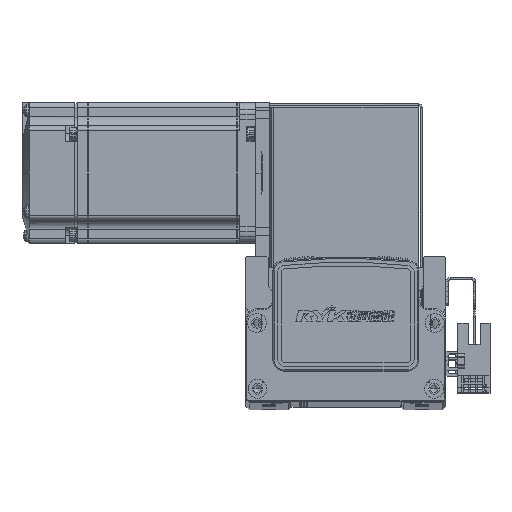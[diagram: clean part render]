
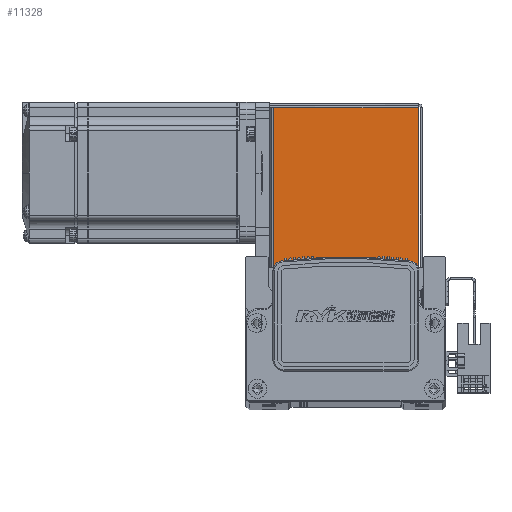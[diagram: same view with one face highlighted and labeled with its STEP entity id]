
A CAD part, top view. The second image highlights one B-rep face of the part: STEP entity #11328.
In plain terms, the highlighted planar face has unit normal (0, 0, 1).
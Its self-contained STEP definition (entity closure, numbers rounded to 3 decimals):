
#11328 = ADVANCED_FACE ( 'NONE', ( #38150 ), #11926, .F. ) ;
#11926 = PLANE ( 'NONE',  #48989 ) ;
#12008 = CARTESIAN_POINT ( 'NONE',  ( 0., 0., 35. ) ) ;
#12032 = DIRECTION ( 'NONE',  ( 0., 0., -1. ) ) ;
#12036 = DIRECTION ( 'NONE',  ( -1., 0., 0. ) ) ;
#13192 = LINE ( 'NONE', #16128, #13236 ) ;
#13193 = LINE ( 'NONE', #16176, #13237 ) ;
#13236 = VECTOR ( 'NONE', #16138, 1000. ) ;
#13237 = VECTOR ( 'NONE', #16183, 1000. ) ;
#13268 = LINE ( 'NONE', #16296, #13315 ) ;
#13301 = VECTOR ( 'NONE', #16289, 1000. ) ;
#13311 = LINE ( 'NONE', #16294, #13301 ) ;
#13315 = VECTOR ( 'NONE', #16266, 1000. ) ;
#16128 = CARTESIAN_POINT ( 'NONE',  ( 30.763, 0.737, 35. ) ) ;
#16138 = DIRECTION ( 'NONE',  ( 0., 1., 0. ) ) ;
#16176 = CARTESIAN_POINT ( 'NONE',  ( -32.5, 0.737, 35. ) ) ;
#16183 = DIRECTION ( 'NONE',  ( -1., 0., 0. ) ) ;
#16266 = DIRECTION ( 'NONE',  ( -1., 0., 0. ) ) ;
#16289 = DIRECTION ( 'NONE',  ( 0., 1., 0. ) ) ;
#16294 = CARTESIAN_POINT ( 'NONE',  ( -30.793, 0., 35. ) ) ;
#16296 = CARTESIAN_POINT ( 'NONE',  ( 0., 68.5, 35. ) ) ;
#18383 = EDGE_LOOP ( 'NONE', ( #76653, #76610, #76672, #76618 ) ) ;
#28009 = EDGE_CURVE ( 'NONE', #50240, #50233, #13192, .T. ) ;
#28020 = EDGE_CURVE ( 'NONE', #50240, #50225, #13193, .T. ) ;
#28056 = EDGE_CURVE ( 'NONE', #50225, #50140, #13311, .T. ) ;
#28060 = EDGE_CURVE ( 'NONE', #50233, #50140, #13268, .T. ) ;
#38150 = FACE_OUTER_BOUND ( 'NONE', #18383, .T. ) ;
#48989 = AXIS2_PLACEMENT_3D ( 'NONE', #12008, #12032, #12036 ) ;
#50140 = VERTEX_POINT ( 'NONE', #57167 ) ;
#50225 = VERTEX_POINT ( 'NONE', #52809 ) ;
#50233 = VERTEX_POINT ( 'NONE', #52882 ) ;
#50240 = VERTEX_POINT ( 'NONE', #52815 ) ;
#52809 = CARTESIAN_POINT ( 'NONE',  ( -30.793, 0.737, 35. ) ) ;
#52815 = CARTESIAN_POINT ( 'NONE',  ( 30.763, 0.737, 35. ) ) ;
#52882 = CARTESIAN_POINT ( 'NONE',  ( 30.763, 68.5, 35. ) ) ;
#57167 = CARTESIAN_POINT ( 'NONE',  ( -30.793, 68.5, 35. ) ) ;
#76610 = ORIENTED_EDGE ( 'NONE', *, *, #28060, .T. ) ;
#76618 = ORIENTED_EDGE ( 'NONE', *, *, #28020, .F. ) ;
#76653 = ORIENTED_EDGE ( 'NONE', *, *, #28009, .T. ) ;
#76672 = ORIENTED_EDGE ( 'NONE', *, *, #28056, .F. ) ;
